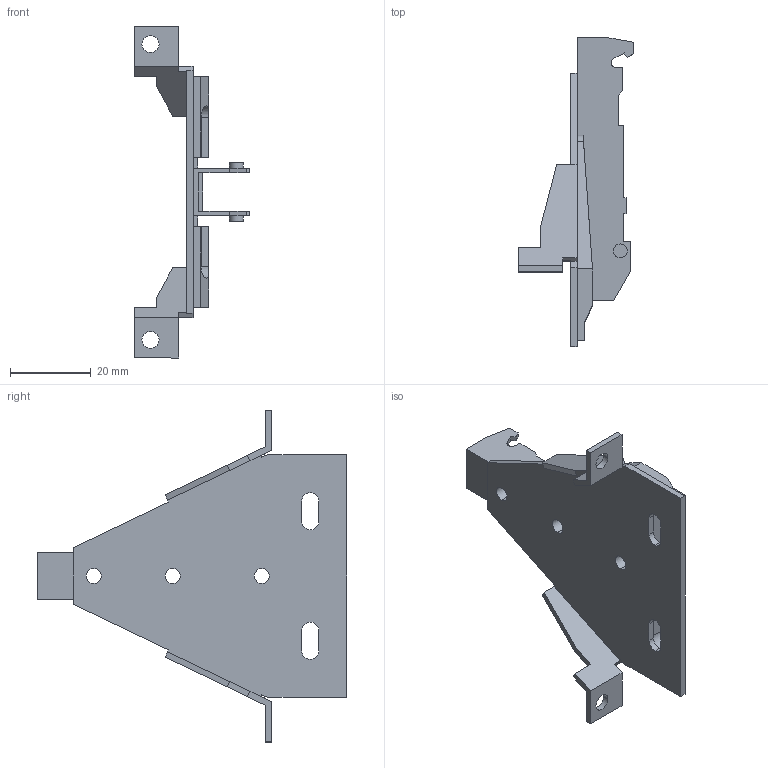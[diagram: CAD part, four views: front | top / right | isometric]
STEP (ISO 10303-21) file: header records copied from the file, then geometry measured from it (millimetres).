
FILE_DESCRIPTION (( 'STEP AP214' ), '1' );
FILE_NAME ('Eco Delta Spax Flange_H 5,0.step', '2010-11-18T10:12:09', ( 'grass' ), ( '' ), 'SwSTEP 2.0', 'SolidWorks 2010', '' );
FILE_SCHEMA (( 'AUTOMOTIVE_DESIGN' ));
Length unit declared in the file: millimetre
Products named in the file (1): Eco Delta Spax Flange_H 5,0
Bounding box: 28.5 x 76.45 x 82 mm (x, y, z)
Volume: 12449.9 mm3; surface area: 11549.9 mm2
Topology: 1 solids, 1 shells, 145 faces, 421 edges, 280 vertices
Faces by surface type: plane 116, cylinder 29
Entity records: 4796 total; most frequent: CARTESIAN_POINT 862, ORIENTED_EDGE 842, DIRECTION 763, EDGE_CURVE 421, LINE 361, VECTOR 361, VERTEX_POINT 280, AXIS2_PLACEMENT_3D 201
